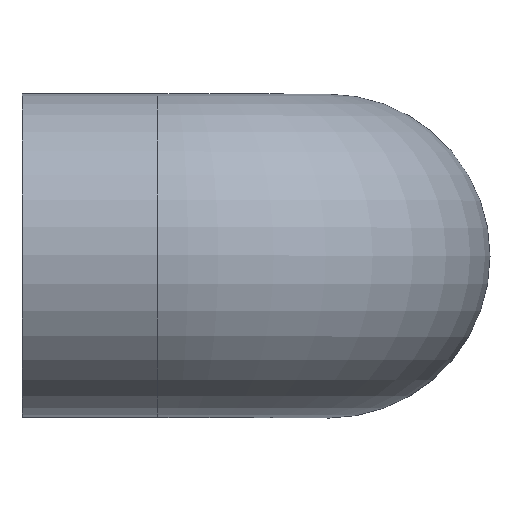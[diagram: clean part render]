
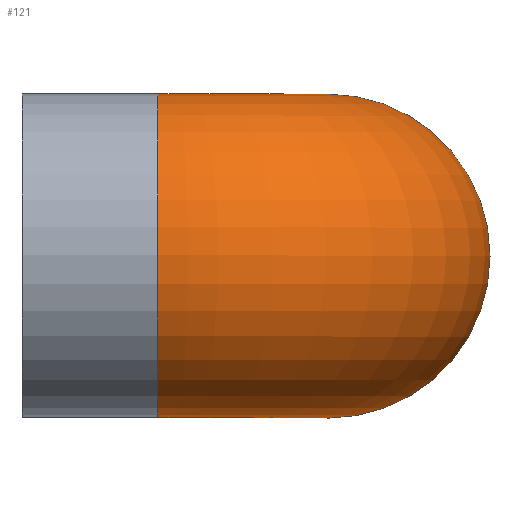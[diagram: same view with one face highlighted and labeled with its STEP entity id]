
A CAD part, top view. The second image highlights one B-rep face of the part: STEP entity #121.
In plain terms, the highlighted toroidal (fillet/blend) face has major radius 39 mm and minor radius 37 mm.
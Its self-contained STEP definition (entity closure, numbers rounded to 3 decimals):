
#29=FACE_BOUND('',#56,.T.);
#39=FACE_OUTER_BOUND('',#55,.T.);
#55=EDGE_LOOP('',(#105));
#56=EDGE_LOOP('',(#106));
#70=CIRCLE('',#140,37.);
#71=CIRCLE('',#142,37.);
#80=VERTEX_POINT('',#210);
#81=VERTEX_POINT('',#213);
#90=EDGE_CURVE('',#80,#80,#70,.T.);
#91=EDGE_CURVE('',#81,#81,#71,.T.);
#105=ORIENTED_EDGE('',*,*,#90,.F.);
#106=ORIENTED_EDGE('',*,*,#91,.T.);
#114=TOROIDAL_SURFACE('',#141,39.,37.);
#121=ADVANCED_FACE('',(#39,#29),#114,.T.);
#140=AXIS2_PLACEMENT_3D('',#211,#175,#176);
#141=AXIS2_PLACEMENT_3D('',#212,#177,#178);
#142=AXIS2_PLACEMENT_3D('',#214,#179,#180);
#175=DIRECTION('center_axis',(-1.,0.,0.));
#176=DIRECTION('ref_axis',(0.,0.,-1.));
#177=DIRECTION('center_axis',(0.,-1.,0.));
#178=DIRECTION('ref_axis',(0.,0.,-1.));
#179=DIRECTION('center_axis',(0.,0.,1.));
#180=DIRECTION('ref_axis',(-1.,0.,0.));
#210=CARTESIAN_POINT('',(-39.,0.,107.));
#211=CARTESIAN_POINT('Origin',(-39.,0.,70.));
#212=CARTESIAN_POINT('Origin',(-39.,0.,31.));
#213=CARTESIAN_POINT('',(37.,0.,31.));
#214=CARTESIAN_POINT('Origin',(0.,0.,31.));
